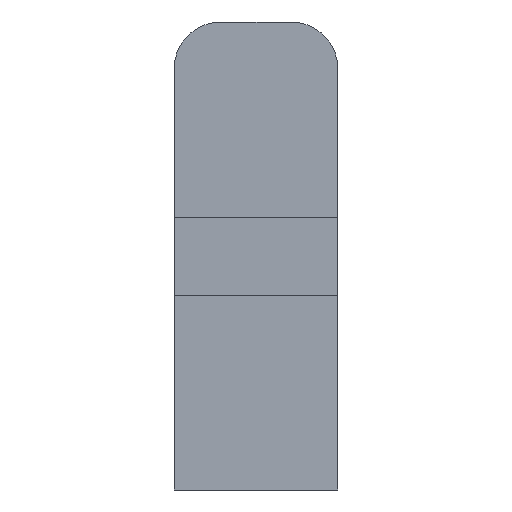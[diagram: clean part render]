
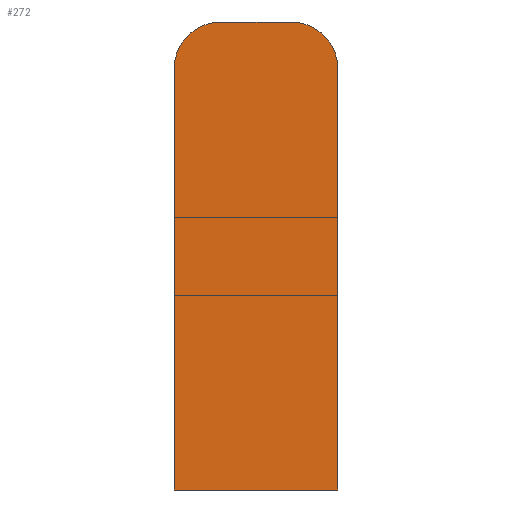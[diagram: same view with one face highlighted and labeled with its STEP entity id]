
A CAD part, front view. The second image highlights one B-rep face of the part: STEP entity #272.
In plain terms, the highlighted planar face has unit normal (0, -1, 0).
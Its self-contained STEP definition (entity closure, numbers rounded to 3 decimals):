
#5 = CARTESIAN_POINT ( 'NONE',  ( 5.25, 0., 10.5 ) ) ;
#24 = VERTEX_POINT ( 'NONE', #50 ) ;
#25 = VERTEX_POINT ( 'NONE', #61 ) ;
#29 = VERTEX_POINT ( 'NONE', #65 ) ;
#31 = VERTEX_POINT ( 'NONE', #67 ) ;
#36 = VERTEX_POINT ( 'NONE', #57 ) ;
#41 = VERTEX_POINT ( 'NONE', #5 ) ;
#50 = CARTESIAN_POINT ( 'NONE',  ( -5.25, 0., -16.5 ) ) ;
#57 = CARTESIAN_POINT ( 'NONE',  ( -2.25, 0., 13.5 ) ) ;
#61 = CARTESIAN_POINT ( 'NONE',  ( -5.25, 0., 10.5 ) ) ;
#65 = CARTESIAN_POINT ( 'NONE',  ( 2.25, 0., 13.5 ) ) ;
#67 = CARTESIAN_POINT ( 'NONE',  ( 5.25, 0., -16.5 ) ) ;
#95 = PLANE ( 'NONE',  #282 ) ;
#98 = CARTESIAN_POINT ( 'NONE',  ( 0., 0., -1.5 ) ) ;
#104 = DIRECTION ( 'NONE',  ( 0., 1., 0. ) ) ;
#105 = DIRECTION ( 'NONE',  ( -1., 0., 0. ) ) ;
#158 = CARTESIAN_POINT ( 'NONE',  ( 5.25, 0., -16.5 ) ) ;
#159 = DIRECTION ( 'NONE',  ( 1., 0., 0. ) ) ;
#181 = CARTESIAN_POINT ( 'NONE',  ( -5.25, 0., -16.5 ) ) ;
#187 = DIRECTION ( 'NONE',  ( 0., 0., -1. ) ) ;
#197 = CARTESIAN_POINT ( 'NONE',  ( 2.25, 0., 10.5 ) ) ;
#209 = CARTESIAN_POINT ( 'NONE',  ( -2.25, 0., 10.5 ) ) ;
#210 = DIRECTION ( 'NONE',  ( 0., -1., 0. ) ) ;
#211 = DIRECTION ( 'NONE',  ( -1., 0., 0. ) ) ;
#217 = CARTESIAN_POINT ( 'NONE',  ( 2.25, 0., 13.5 ) ) ;
#218 = DIRECTION ( 'NONE',  ( -1., 0., 0. ) ) ;
#219 = DIRECTION ( 'NONE',  ( 0., -1., 0. ) ) ;
#220 = DIRECTION ( 'NONE',  ( -1., 0., 0. ) ) ;
#237 = CARTESIAN_POINT ( 'NONE',  ( 5.25, 0., -16.5 ) ) ;
#238 = DIRECTION ( 'NONE',  ( 0., 0., 1. ) ) ;
#272 = ADVANCED_FACE ( 'NONE', ( #376 ), #95, .F. ) ;
#282 = AXIS2_PLACEMENT_3D ( 'NONE', #98, #104, #105 ) ;
#303 = EDGE_CURVE ( 'NONE', #24, #31, #409, .T. ) ;
#332 = EDGE_CURVE ( 'NONE', #25, #24, #431, .T. ) ;
#338 = AXIS2_PLACEMENT_3D ( 'NONE', #209, #219, #220 ) ;
#352 = EDGE_CURVE ( 'NONE', #41, #29, #455, .T. ) ;
#356 = EDGE_CURVE ( 'NONE', #29, #36, #458, .T. ) ;
#357 = EDGE_CURVE ( 'NONE', #36, #25, #462, .T. ) ;
#363 = AXIS2_PLACEMENT_3D ( 'NONE', #197, #210, #211 ) ;
#369 = EDGE_CURVE ( 'NONE', #31, #41, #465, .T. ) ;
#376 = FACE_OUTER_BOUND ( 'NONE', #530, .T. ) ;
#409 = LINE ( 'NONE', #158, #412 ) ;
#412 = VECTOR ( 'NONE', #159, 1000. ) ;
#431 = LINE ( 'NONE', #181, #438 ) ;
#438 = VECTOR ( 'NONE', #187, 1000. ) ;
#455 = CIRCLE ( 'NONE', #363, 3. ) ;
#458 = LINE ( 'NONE', #217, #459 ) ;
#459 = VECTOR ( 'NONE', #218, 1000. ) ;
#462 = CIRCLE ( 'NONE', #338, 3. ) ;
#465 = LINE ( 'NONE', #237, #466 ) ;
#466 = VECTOR ( 'NONE', #238, 1000. ) ;
#506 = ORIENTED_EDGE ( 'NONE', *, *, #369, .T. ) ;
#530 = EDGE_LOOP ( 'NONE', ( #506, #552, #538, #531, #532, #541 ) ) ;
#531 = ORIENTED_EDGE ( 'NONE', *, *, #357, .T. ) ;
#532 = ORIENTED_EDGE ( 'NONE', *, *, #332, .T. ) ;
#538 = ORIENTED_EDGE ( 'NONE', *, *, #356, .T. ) ;
#541 = ORIENTED_EDGE ( 'NONE', *, *, #303, .T. ) ;
#552 = ORIENTED_EDGE ( 'NONE', *, *, #352, .T. ) ;
